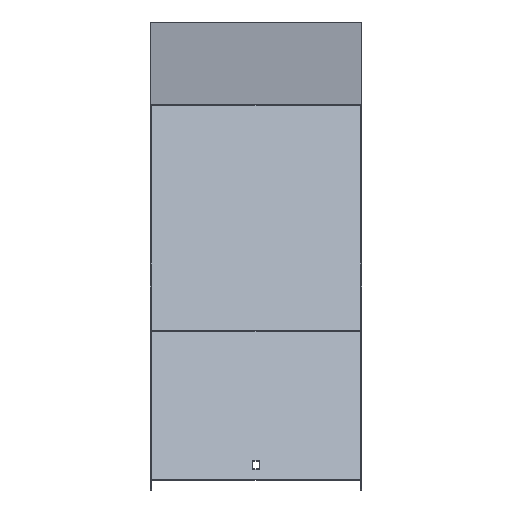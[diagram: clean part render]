
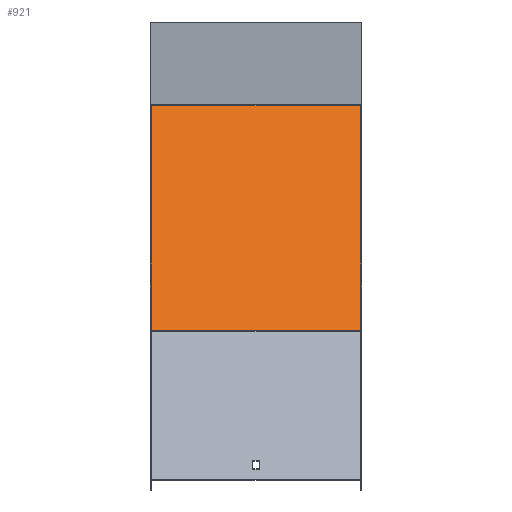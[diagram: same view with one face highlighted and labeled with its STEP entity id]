
A CAD part, top view. The second image highlights one B-rep face of the part: STEP entity #921.
In plain terms, the highlighted planar face has unit normal (0, 0.707, 0.707).
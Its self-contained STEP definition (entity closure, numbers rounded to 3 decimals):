
#10 = EDGE_CURVE ( 'NONE', #919, #620, #798, .T. ) ;
#65 = LINE ( 'NONE', #689, #487 ) ;
#173 = ORIENTED_EDGE ( 'NONE', *, *, #777, .T. ) ;
#239 = DIRECTION ( 'NONE',  ( 0., 0.707, -0.707 ) ) ;
#280 = CARTESIAN_POINT ( 'NONE',  ( -101.5, -59.455, 462.165 ) ) ;
#283 = LINE ( 'NONE', #578, #721 ) ;
#286 = EDGE_CURVE ( 'NONE', #620, #859, #624, .T. ) ;
#311 = ORIENTED_EDGE ( 'NONE', *, *, #10, .F. ) ;
#317 = CARTESIAN_POINT ( 'NONE',  ( 101.5, -276.532, 679.241 ) ) ;
#331 = VECTOR ( 'NONE', #577, 1000. ) ;
#390 = FACE_OUTER_BOUND ( 'NONE', #773, .T. ) ;
#417 = CARTESIAN_POINT ( 'NONE',  ( 101.5, -276.532, 679.241 ) ) ;
#421 = VECTOR ( 'NONE', #636, 1000. ) ;
#454 = AXIS2_PLACEMENT_3D ( 'NONE', #632, #771, #239 ) ;
#467 = CARTESIAN_POINT ( 'NONE',  ( 101.5, -59.455, 462.165 ) ) ;
#487 = VECTOR ( 'NONE', #534, 1000. ) ;
#515 = CARTESIAN_POINT ( 'NONE',  ( 101.5, -63.245, 465.954 ) ) ;
#527 = EDGE_CURVE ( 'NONE', #919, #788, #283, .T. ) ;
#534 = DIRECTION ( 'NONE',  ( 0., -0.707, 0.707 ) ) ;
#577 = DIRECTION ( 'NONE',  ( 0., -0.707, 0.707 ) ) ;
#578 = CARTESIAN_POINT ( 'NONE',  ( 101.5, -59.455, 462.165 ) ) ;
#600 = ORIENTED_EDGE ( 'NONE', *, *, #527, .T. ) ;
#620 = VERTEX_POINT ( 'NONE', #417 ) ;
#624 = LINE ( 'NONE', #317, #421 ) ;
#632 = CARTESIAN_POINT ( 'NONE',  ( 101.5, -63.245, 465.954 ) ) ;
#636 = DIRECTION ( 'NONE',  ( -1., 0., 0. ) ) ;
#652 = ORIENTED_EDGE ( 'NONE', *, *, #286, .F. ) ;
#689 = CARTESIAN_POINT ( 'NONE',  ( -101.5, -63.245, 465.954 ) ) ;
#714 = PLANE ( 'NONE',  #454 ) ;
#721 = VECTOR ( 'NONE', #818, 1000. ) ;
#771 = DIRECTION ( 'NONE',  ( 0., -0.707, -0.707 ) ) ;
#773 = EDGE_LOOP ( 'NONE', ( #173, #652, #311, #600 ) ) ;
#777 = EDGE_CURVE ( 'NONE', #788, #859, #65, .T. ) ;
#788 = VERTEX_POINT ( 'NONE', #280 ) ;
#798 = LINE ( 'NONE', #515, #331 ) ;
#818 = DIRECTION ( 'NONE',  ( -1., 0., 0. ) ) ;
#859 = VERTEX_POINT ( 'NONE', #960 ) ;
#919 = VERTEX_POINT ( 'NONE', #467 ) ;
#921 = ADVANCED_FACE ( 'NONE', ( #390 ), #714, .F. ) ;
#960 = CARTESIAN_POINT ( 'NONE',  ( -101.5, -276.532, 679.241 ) ) ;
